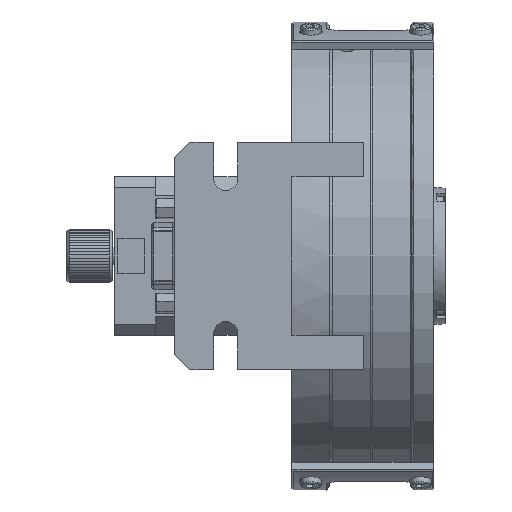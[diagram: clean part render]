
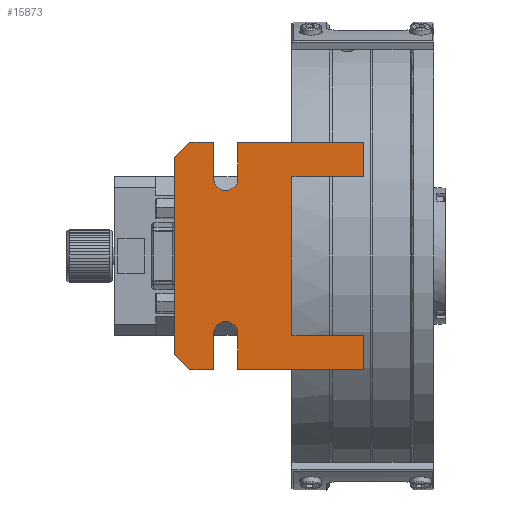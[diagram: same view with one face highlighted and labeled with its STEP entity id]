
A CAD part, front view. The second image highlights one B-rep face of the part: STEP entity #15873.
In plain terms, the highlighted planar face has unit normal (0, -1, 0).
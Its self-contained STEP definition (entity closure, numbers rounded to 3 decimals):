
#723=LINE($,#28244,#1656);
#740=LINE($,#28286,#1673);
#742=LINE($,#28292,#1675);
#748=LINE($,#28304,#1681);
#750=LINE($,#28308,#1683);
#766=LINE($,#28356,#1699);
#770=LINE($,#28365,#1703);
#793=LINE($,#28416,#1726);
#796=LINE($,#28426,#1729);
#798=LINE($,#28430,#1731);
#799=LINE($,#28432,#1732);
#800=LINE($,#28435,#1733);
#801=LINE($,#28436,#1734);
#802=LINE($,#28437,#1735);
#803=LINE($,#28438,#1736);
#804=LINE($,#28439,#1737);
#1656=VECTOR($,#20886,9.);
#1673=VECTOR($,#20917,52.);
#1675=VECTOR($,#20921,9.);
#1681=VECTOR($,#20931,19.);
#1683=VECTOR($,#20935,19.);
#1699=VECTOR($,#20979,9.5);
#1703=VECTOR($,#20985,9.5);
#1726=VECTOR($,#21034,9.5);
#1729=VECTOR($,#21047,9.5);
#1731=VECTOR($,#21051,6.3);
#1732=VECTOR($,#21054,5.657);
#1733=VECTOR($,#21057,5.657);
#1734=VECTOR($,#21058,33.3);
#1735=VECTOR($,#21059,42.);
#1736=VECTOR($,#21060,33.3);
#1737=VECTOR($,#21061,6.3);
#2735=PLANE($,#17465);
#4262=FACE_OUTER_BOUND($,#5706,.T.);
#5706=EDGE_LOOP($,(#12855,#12856,#12857,#12858,#12859,#12860,#12861,#12862,
#12863,#12864,#12865,#12866,#12867,#12868,#12869,#12870,#12871,#12872));
#6707=CIRCLE($,#17459,3.2);
#6708=CIRCLE($,#17461,3.2);
#7886=VERTEX_POINT($,#28237);
#7889=VERTEX_POINT($,#28242);
#7905=VERTEX_POINT($,#28280);
#7907=VERTEX_POINT($,#28284);
#7909=VERTEX_POINT($,#28289);
#7910=VERTEX_POINT($,#28291);
#7914=VERTEX_POINT($,#28303);
#7915=VERTEX_POINT($,#28307);
#7931=VERTEX_POINT($,#28352);
#7933=VERTEX_POINT($,#28355);
#7935=VERTEX_POINT($,#28361);
#7937=VERTEX_POINT($,#28364);
#7951=VERTEX_POINT($,#28412);
#7952=VERTEX_POINT($,#28414);
#7953=VERTEX_POINT($,#28420);
#7954=VERTEX_POINT($,#28424);
#7955=VERTEX_POINT($,#28428);
#7956=VERTEX_POINT($,#28434);
#9575=EDGE_CURVE($,#7886,#7889,#723,.T.);
#9595=EDGE_CURVE($,#7907,#7905,#740,.T.);
#9597=EDGE_CURVE($,#7910,#7909,#742,.T.);
#9603=EDGE_CURVE($,#7914,#7886,#748,.T.);
#9605=EDGE_CURVE($,#7909,#7915,#750,.T.);
#9627=EDGE_CURVE($,#7933,#7931,#766,.T.);
#9631=EDGE_CURVE($,#7937,#7935,#770,.T.);
#9658=EDGE_CURVE($,#7951,#7952,#793,.T.);
#9659=EDGE_CURVE($,#7951,#7935,#6707,.T.);
#9661=EDGE_CURVE($,#7953,#7931,#6708,.T.);
#9663=EDGE_CURVE($,#7953,#7954,#796,.T.);
#9665=EDGE_CURVE($,#7955,#7937,#798,.T.);
#9666=EDGE_CURVE($,#7955,#7907,#799,.T.);
#9667=EDGE_CURVE($,#7905,#7956,#800,.T.);
#9668=EDGE_CURVE($,#7952,#7910,#801,.T.);
#9669=EDGE_CURVE($,#7915,#7914,#802,.T.);
#9670=EDGE_CURVE($,#7933,#7889,#803,.T.);
#9671=EDGE_CURVE($,#7956,#7954,#804,.T.);
#12855=ORIENTED_EDGE($,*,*,#9667,.F.);
#12856=ORIENTED_EDGE($,*,*,#9595,.F.);
#12857=ORIENTED_EDGE($,*,*,#9666,.F.);
#12858=ORIENTED_EDGE($,*,*,#9665,.T.);
#12859=ORIENTED_EDGE($,*,*,#9631,.T.);
#12860=ORIENTED_EDGE($,*,*,#9659,.F.);
#12861=ORIENTED_EDGE($,*,*,#9658,.T.);
#12862=ORIENTED_EDGE($,*,*,#9668,.T.);
#12863=ORIENTED_EDGE($,*,*,#9597,.T.);
#12864=ORIENTED_EDGE($,*,*,#9605,.T.);
#12865=ORIENTED_EDGE($,*,*,#9669,.T.);
#12866=ORIENTED_EDGE($,*,*,#9603,.T.);
#12867=ORIENTED_EDGE($,*,*,#9575,.T.);
#12868=ORIENTED_EDGE($,*,*,#9670,.F.);
#12869=ORIENTED_EDGE($,*,*,#9627,.T.);
#12870=ORIENTED_EDGE($,*,*,#9661,.F.);
#12871=ORIENTED_EDGE($,*,*,#9663,.T.);
#12872=ORIENTED_EDGE($,*,*,#9671,.F.);
#15873=ADVANCED_FACE($,(#4262),#2735,.T.);
#17459=AXIS2_PLACEMENT_3D($,#28418,#21037,#21038);
#17461=AXIS2_PLACEMENT_3D($,#28422,#21042,#21043);
#17465=AXIS2_PLACEMENT_3D($,#28433,#21055,#21056);
#20886=DIRECTION($,(0.,0.,1.));
#20917=DIRECTION($,(0.,0.,1.));
#20921=DIRECTION($,(0.,0.,1.));
#20931=DIRECTION($,(1.,0.,0.));
#20935=DIRECTION($,(-1.,0.,0.));
#20979=DIRECTION($,(0.,0.,-1.));
#20985=DIRECTION($,(0.,0.,1.));
#21034=DIRECTION($,(0.,0.,-1.));
#21037=DIRECTION('center_axis',(0.,-1.,0.));
#21038=DIRECTION('ref_axis',(0.707,0.,0.707));
#21042=DIRECTION('center_axis',(0.,-1.,0.));
#21043=DIRECTION('ref_axis',(-0.707,0.,-0.707));
#21047=DIRECTION($,(0.,0.,1.));
#21051=DIRECTION($,(1.,0.,0.));
#21054=DIRECTION($,(-0.707,0.,0.707));
#21055=DIRECTION('center_axis',(0.,-1.,0.));
#21056=DIRECTION('ref_axis',(1.,0.,0.));
#21057=DIRECTION($,(0.707,0.,0.707));
#21058=DIRECTION($,(1.,0.,0.));
#21059=DIRECTION($,(0.,0.,1.));
#21060=DIRECTION($,(1.,0.,0.));
#21061=DIRECTION($,(1.,0.,0.));
#28237=CARTESIAN_POINT('',(150.877,132.236,-82.168));
#28242=CARTESIAN_POINT('',(150.877,132.236,-73.168));
#28244=CARTESIAN_POINT($,(150.877,132.236,-133.168));
#28280=CARTESIAN_POINT('',(100.877,132.236,-77.168));
#28284=CARTESIAN_POINT('',(100.877,132.236,-129.168));
#28286=CARTESIAN_POINT($,(100.877,132.236,-133.168));
#28289=CARTESIAN_POINT('',(150.877,132.236,-124.168));
#28291=CARTESIAN_POINT('',(150.877,132.236,-133.168));
#28292=CARTESIAN_POINT($,(150.877,132.236,-133.168));
#28303=CARTESIAN_POINT('',(131.877,132.236,-82.168));
#28304=CARTESIAN_POINT($,(125.877,132.236,-82.168));
#28307=CARTESIAN_POINT('',(131.877,132.236,-124.168));
#28308=CARTESIAN_POINT($,(116.377,132.236,-124.168));
#28352=CARTESIAN_POINT('',(117.577,132.236,-82.668));
#28355=CARTESIAN_POINT('',(117.577,132.236,-73.168));
#28356=CARTESIAN_POINT($,(117.577,132.236,-109.518));
#28361=CARTESIAN_POINT('',(111.177,132.236,-123.668));
#28364=CARTESIAN_POINT('',(111.177,132.236,-133.168));
#28365=CARTESIAN_POINT($,(111.177,132.236,-126.818));
#28412=CARTESIAN_POINT('',(117.577,132.236,-123.668));
#28414=CARTESIAN_POINT('',(117.577,132.236,-133.168));
#28416=CARTESIAN_POINT($,(117.577,132.236,-134.091));
#28418=CARTESIAN_POINT('Origin',(114.377,132.236,-123.668));
#28420=CARTESIAN_POINT('',(111.177,132.236,-82.668));
#28422=CARTESIAN_POINT('Origin',(114.377,132.236,-82.668));
#28424=CARTESIAN_POINT('',(111.177,132.236,-73.168));
#28426=CARTESIAN_POINT($,(111.177,132.236,-101.163));
#28428=CARTESIAN_POINT('',(104.877,132.236,-133.168));
#28430=CARTESIAN_POINT($,(100.877,132.236,-133.168));
#28432=CARTESIAN_POINT($,(102.877,132.236,-131.168));
#28433=CARTESIAN_POINT('Origin',(100.877,132.236,-133.168));
#28434=CARTESIAN_POINT('',(104.877,132.236,-73.168));
#28435=CARTESIAN_POINT($,(87.877,132.236,-90.168));
#28436=CARTESIAN_POINT($,(100.877,132.236,-133.168));
#28437=CARTESIAN_POINT($,(131.877,132.236,-107.668));
#28438=CARTESIAN_POINT($,(100.877,132.236,-73.168));
#28439=CARTESIAN_POINT($,(100.877,132.236,-73.168));
